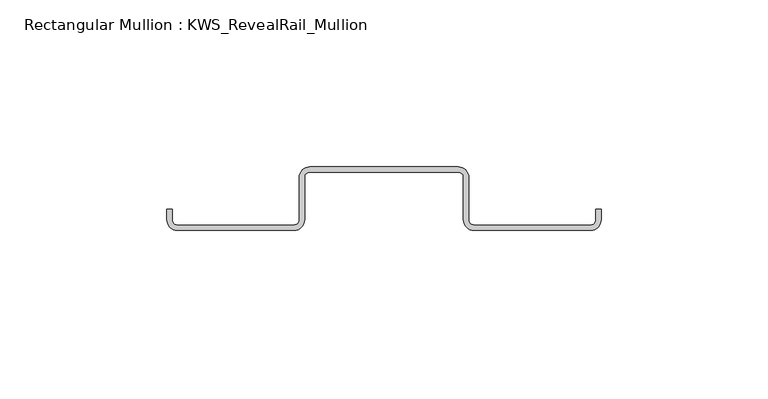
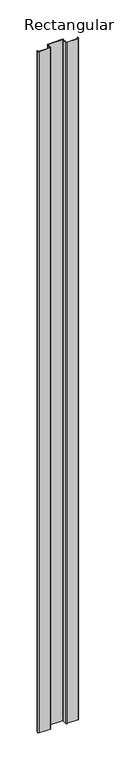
"""IFC4 building model written with IfcOpenShell, lengths in millimetres: member geometry, Rectangular Mullion : KWS_RevealRail_Mullion."""

from ifc_helpers import new_model, si_unit, point, frame, frame_2d, origin, place, context, project, spatial, polyline, circle_curve, trimmed, segment, composite_curve, outline, extrude, source, transform, mapped, element, save


def rectangular_mullion_kws_revealrail_mullion_6a7aed80(model_context):
    return source(origin(), model_context, "Body", "SweptSolid", [
        extrude(outline(composite_curve([segment(polyline([(-65.0875, -15.8115), (-65.0875, -12.6365), (-63.5, -12.6365), (-63.5, -15.8115)]), True, "CONTINUOUS"), segment(trimmed(circle_curve(frame_2d((-61.9125, -15.8115)), 1.5875), [point((-63.5, -15.8115))], [point((-61.9125, -17.399))], True, "CARTESIAN"), True, "CONTINUOUS"), segment(polyline([(-61.9125, -17.399), (-26.9875, -17.399)]), True, "CONTINUOUS"), segment(trimmed(circle_curve(frame_2d((-26.9875, -15.8115)), 1.5875), [point((-26.9875, -17.399))], [point((-25.4, -15.8115))], True, "CARTESIAN"), True, "CONTINUOUS"), segment(polyline([(-25.4, -15.8115), (-25.4, -3.1115)]), True, "CONTINUOUS"), segment(trimmed(circle_curve(frame_2d((-22.225, -3.1115)), 3.175), [point((-25.4, -3.1115))], [point((-22.225, 0.0635))], False, "CARTESIAN"), True, "CONTINUOUS"), segment(polyline([(-22.225, 0.0635), (22.225, 0.0635)]), True, "CONTINUOUS"), segment(trimmed(circle_curve(frame_2d((22.225, -3.1115)), 3.175), [point((22.225, 0.0635))], [point((25.4, -3.1115))], False, "CARTESIAN"), True, "CONTINUOUS"), segment(polyline([(25.4, -3.1115), (25.4, -15.8115)]), True, "CONTINUOUS"), segment(trimmed(circle_curve(frame_2d((26.9875, -15.8115)), 1.5875), [point((25.4, -15.8115))], [point((26.9875, -17.399))], True, "CARTESIAN"), True, "CONTINUOUS"), segment(polyline([(26.9875, -17.399), (61.9125, -17.399)]), True, "CONTINUOUS"), segment(trimmed(circle_curve(frame_2d((61.9125, -15.8115)), 1.5875), [point((61.9125, -17.399))], [point((63.5, -15.8115))], True, "CARTESIAN"), True, "CONTINUOUS"), segment(polyline([(63.5, -15.8115), (63.5, -12.6365), (65.0875, -12.6365), (65.0875, -15.8115)]), True, "CONTINUOUS"), segment(trimmed(circle_curve(frame_2d((61.9125, -15.8115)), 3.175), [point((65.0875, -15.8115))], [point((61.9125, -18.9865))], False, "CARTESIAN"), True, "CONTINUOUS"), segment(polyline([(61.9125, -18.9865), (26.9875, -18.9865)]), True, "CONTINUOUS"), segment(trimmed(circle_curve(frame_2d((26.9875, -15.8115)), 3.175), [point((26.9875, -18.9865))], [point((23.8125, -15.8115))], False, "CARTESIAN"), True, "CONTINUOUS"), segment(polyline([(23.8125, -15.8115), (23.8125, -3.1115)]), True, "CONTINUOUS"), segment(trimmed(circle_curve(frame_2d((22.225, -3.1115)), 1.5875), [point((23.8125, -3.1115))], [point((22.225, -1.524))], True, "CARTESIAN"), True, "CONTINUOUS"), segment(polyline([(22.225, -1.524), (-22.225, -1.524)]), True, "CONTINUOUS"), segment(trimmed(circle_curve(frame_2d((-22.225, -3.1115)), 1.5875), [point((-22.225, -1.524))], [point((-23.8125, -3.1115))], True, "CARTESIAN"), True, "CONTINUOUS"), segment(polyline([(-23.8125, -3.1115), (-23.8125, -15.8115)]), True, "CONTINUOUS"), segment(trimmed(circle_curve(frame_2d((-26.9875, -15.8115)), 3.175), [point((-23.8125, -15.8115))], [point((-26.9875, -18.9865))], False, "CARTESIAN"), True, "CONTINUOUS"), segment(polyline([(-26.9875, -18.9865), (-61.9125, -18.9865)]), True, "CONTINUOUS"), segment(trimmed(circle_curve(frame_2d((-61.9125, -15.8115)), 3.175), [point((-61.9125, -18.9865))], [point((-65.0875, -15.8115))], False, "CARTESIAN"), True, "CONTINUOUS")], self_intersect=False)), frame((0.0, 0.0, -2286.0), z_axis=(0.0, 0.0, 1.0), x_axis=(1.0, 0.0, 0.0)), (0.0, 0.0, 1.0), 2286.0),
    ])


if __name__ == "__main__":
    model = new_model("IFC4")
    model_context = context("Model", 3, world=origin())
    ifc_project = project(units=[si_unit("LENGTHUNIT", "METRE", prefix="MILLI")], contexts=[model_context])
    site = spatial("IfcSite", under=ifc_project)
    building = spatial("IfcBuilding", under=site)
    placement = place(None, origin())
    rectangular_mullion_kws_revealrail_mullion_shape = rectangular_mullion_kws_revealrail_mullion_6a7aed80(model_context)
    element("IfcMember", 1, ObjectType="Rectangular Mullion : KWS_RevealRail_Mullion", at=placement, inside=building, context=model_context, shape_type="MappedRepresentation", body=[
        mapped(rectangular_mullion_kws_revealrail_mullion_shape, transform((0.0, 0.0, 0.0), x_axis=(1.0, 0.0, 0.0), y_axis=(0.0, 1.0, 0.0), z_axis=(0.0, 0.0, 1.0))),
    ])
    save(model, "model.ifc")
